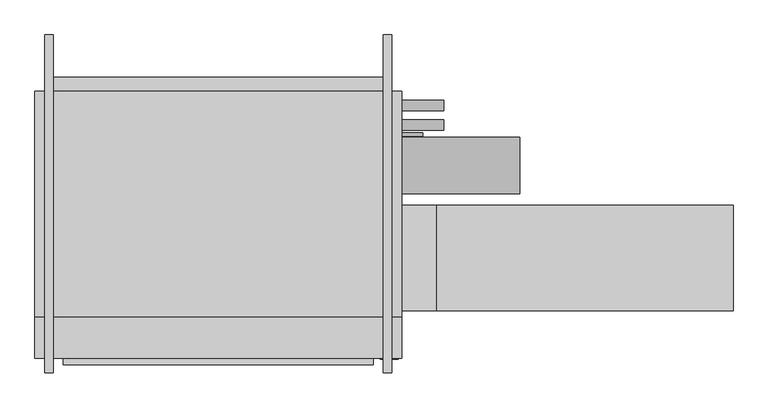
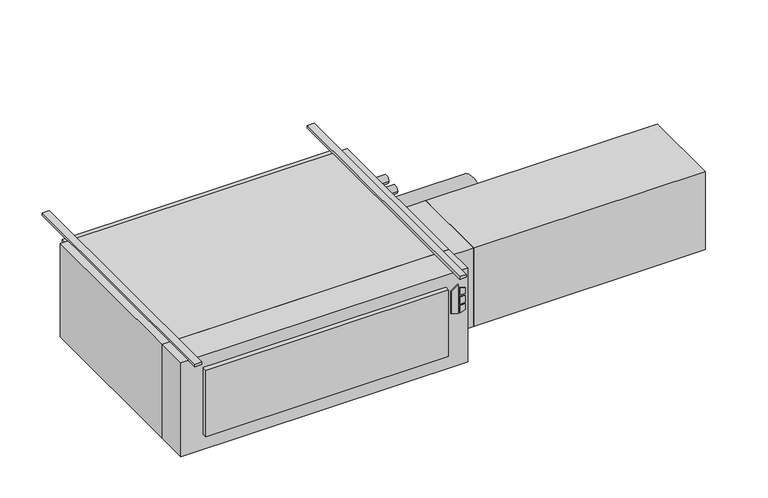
"""IFC4 building model written with IfcOpenShell, lengths in millimetres: proxy geometry."""

from ifc_helpers import new_model, si_unit, point, frame, frame_2d, origin, origin_with_axes, place, context, project, spatial, polyline, circle_curve, trimmed, segment, composite_curve, outline, extrude, source, transform, mapped, element, save


def mechanical_equipment_97149d46(model_context):
    return source(origin(), model_context, "Body", "SweptSolid", [
        extrude(outline(polyline([(-193.2519297, 735.0868862), (-203.2, 767.2602728), (-61.0290756, 767.2602728), (-84.0510817, 735.0868862), (-193.2519297, 735.0868862)])), frame((0.0, -797.052, 0.0), z_axis=(0.0, 1.0, 0.0), x_axis=(0.0, 0.0, 1.0)), (0.0, 0.0, 1.0), 3.175),
        extrude(outline(polyline([(-114.2526443, 774.0186058), (-117.4550368, 800.1), (-88.2261958, 800.1), (-80.1617807, 774.0186058), (-114.2526443, 774.0186058)])), frame((0.0, -797.052, 0.0), z_axis=(0.0, 1.0, 0.0), x_axis=(0.0, 0.0, 1.0)), (0.0, 0.0, 1.0), 3.175),
        extrude(outline(polyline([(-166.1161712, 800.1), (-169.7816721, 774.0186058), (-203.2, 774.0186058), (-194.5657628, 800.1), (-166.1161712, 800.1)])), frame((0.0, -797.052, 0.0), z_axis=(0.0, 1.0, 0.0), x_axis=(0.0, 0.0, 1.0)), (0.0, 0.0, 1.0), 3.175),
        extrude(outline(polyline([(-126.8010097, 800.1), (-124.5191834, 774.0186058), (-160.4567319, 774.0186058), (-157.7154669, 800.1), (-126.8010097, 800.1)])), frame((0.0, -797.052, 0.0), z_axis=(0.0, 1.0, 0.0), x_axis=(0.0, 0.0, 1.0)), (0.0, 0.0, 1.0), 3.175),
        extrude(outline(polyline([(812.8, -793.877), (-508.0, -793.877), (-508.0, -644.525), (812.8, -644.525), (812.8, -793.877)])), frame((0.0, 0.0, -457.2), z_axis=(0.0, 0.0, 1.0), x_axis=(1.0, 0.0, 0.0)), (0.0, 0.0, 1.0), 457.2),
        extrude(outline(polyline([(711.2, -816.229), (-406.4, -816.229), (-406.4, -793.877), (711.2, -793.877), (711.2, -816.229)])), frame((0.0, 0.0, -381.0), z_axis=(0.0, 0.0, 1.0), x_axis=(1.0, 0.0, 0.0)), (0.0, 0.0, 1.0), 323.85),
        extrude(outline(polyline([(2006.6, -241.3), (2006.6, -622.3), (939.8, -622.3), (939.8, -241.3), (2006.6, -241.3)])), frame((0.0, 0.0, -431.8), z_axis=(0.0, 0.0, 1.0), x_axis=(1.0, 0.0, 0.0)), (0.0, 0.0, 1.0), 381.0),
        extrude(outline(polyline([(939.8, -241.3), (939.8, -622.3), (812.8, -622.3), (812.8, -241.3), (939.8, -241.3)])), frame((0.0, 0.0, -431.8), z_axis=(0.0, 0.0, 1.0), x_axis=(1.0, 0.0, 0.0)), (0.0, 0.0, 1.0), 381.0),
        extrude(outline(composite_curve([segment(trimmed(circle_curve(frame_2d((117.475, -171.45)), 19.05), [point((136.525, -171.45))], [point((98.425, -171.45))], False, "CARTESIAN"), True, "CONTINUOUS"), segment(trimmed(circle_curve(frame_2d((117.475, -171.45)), 19.05), [point((98.425, -171.45))], [point((136.525, -171.45))], False, "CARTESIAN"), True, "CONTINUOUS")], self_intersect=False)), frame((812.8, 0.0, 0.0), z_axis=(1.0, 0.0, 0.0), x_axis=(0.0, 1.0, 0.0)), (0.0, 0.0, 1.0), 152.4),
        extrude(outline(composite_curve([segment(trimmed(circle_curve(frame_2d((47.625, -177.8)), 19.05), [point((66.675, -177.8))], [point((28.575, -177.8))], False, "CARTESIAN"), True, "CONTINUOUS"), segment(trimmed(circle_curve(frame_2d((47.625, -177.8)), 19.05), [point((28.575, -177.8))], [point((66.675, -177.8))], False, "CARTESIAN"), True, "CONTINUOUS")], self_intersect=False)), frame((812.8, 0.0, 0.0), z_axis=(1.0, 0.0, 0.0), x_axis=(0.0, 1.0, 0.0)), (0.0, 0.0, 1.0), 152.4),
        extrude(outline(composite_curve([segment(trimmed(circle_curve(frame_2d((-98.4896516, -228.6360165)), 101.6), [point((3.1103484, -228.6360165))], [point((-200.0896516, -228.6360165))], False, "CARTESIAN"), True, "CONTINUOUS"), segment(trimmed(circle_curve(frame_2d((-98.4896516, -228.6360165)), 101.6), [point((-200.0896516, -228.6360165))], [point((3.1103484, -228.6360165))], False, "CARTESIAN"), True, "CONTINUOUS")], self_intersect=False)), frame((812.8, 0.0, 0.0), z_axis=(1.0, 0.0, 0.0), x_axis=(0.0, 1.0, 0.0)), (0.0, 0.0, 1.0), 425.45),
        extrude(outline(composite_curve([segment(trimmed(circle_curve(frame_2d((12.7, -409.575)), 6.35), [point((19.05, -409.575))], [point((6.35, -409.575))], False, "CARTESIAN"), True, "CONTINUOUS"), segment(trimmed(circle_curve(frame_2d((12.7, -409.575)), 6.35), [point((6.35, -409.575))], [point((19.05, -409.575))], False, "CARTESIAN"), True, "CONTINUOUS")], self_intersect=False)), frame((812.8, 0.0, 0.0), z_axis=(1.0, 0.0, 0.0), x_axis=(0.0, 1.0, 0.0)), (0.0, 0.0, 1.0), 76.2),
        extrude(outline(polyline([(812.8, 168.275), (812.8, -644.525), (-508.0, -644.525), (-508.0, 168.275), (812.8, 168.275)])), frame((0.0, 0.0, -457.2), z_axis=(0.0, 0.0, 1.0), x_axis=(1.0, 0.0, 0.0)), (0.0, 0.0, 1.0), 457.2),
        extrude(outline(polyline([(-469.9, 219.075), (774.7, 219.075), (774.7, 168.275), (-469.9, 168.275), (-469.9, 219.075)])), frame((0.0, 0.0, -381.0), z_axis=(0.0, 0.0, 1.0), x_axis=(1.0, 0.0, 0.0)), (0.0, 0.0, 1.0), 355.6),
        extrude(outline(polyline([(-441.325, 371.475), (-441.325, -844.677), (-473.075, -844.677), (-473.075, 371.475), (-441.325, 371.475)])), origin_with_axes(), (0.0, 0.0, 1.0), 12.7),
        extrude(outline(polyline([(777.875, 371.475), (777.875, -844.677), (746.125, -844.677), (746.125, 371.475), (777.875, 371.475)])), origin_with_axes(), (0.0, 0.0, 1.0), 12.7),
    ])


if __name__ == "__main__":
    model = new_model("IFC4")
    model_context = context("Model", 3, world=origin())
    ifc_project = project(units=[si_unit("LENGTHUNIT", "METRE", prefix="MILLI")], contexts=[model_context])
    site = spatial("IfcSite", under=ifc_project)
    building = spatial("IfcBuilding", under=site)
    placement = place(None, origin())
    mechanical_equipment_shape = mechanical_equipment_97149d46(model_context)
    element("IfcBuildingElementProxy", 1, Name="High_Capacity_Horizontal_Cabinet_Fan_Coil_Unit_-_HTY_-_IEC_-_2 Pipe, Elec Heat_RH Side_2022 : Size 18 - 277v/60Hz/1Ph - 8/0 Coil 10.0kW - 8\" AirIn", ObjectType="High_Capacity_Horizontal_Cabinet_Fan_Coil_Unit_-_HTY_-_IEC_-_2 Pipe, Elec Heat_RH Side_2022 : Size 18 - 277v/60Hz/1Ph - 8/0 Coil 10.0kW - 8\" AirIn", at=placement, inside=building, context=model_context, shape_type="MappedRepresentation", body=[
        mapped(mechanical_equipment_shape, transform((0.0, 0.0, 0.0), x_axis=(1.0, 0.0, 0.0), y_axis=(0.0, 1.0, 0.0), z_axis=(0.0, 0.0, 1.0))),
    ])
    save(model, "model.ifc")
